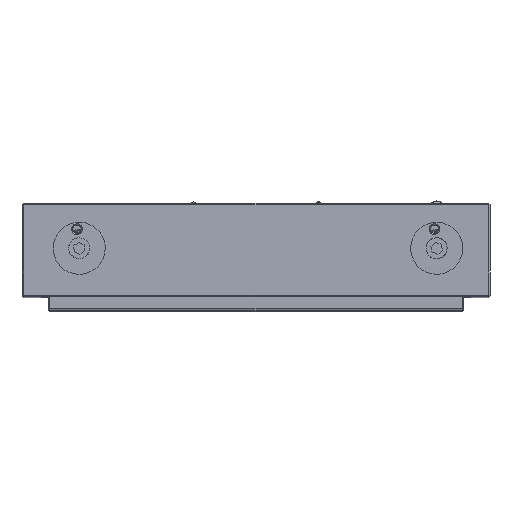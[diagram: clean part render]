
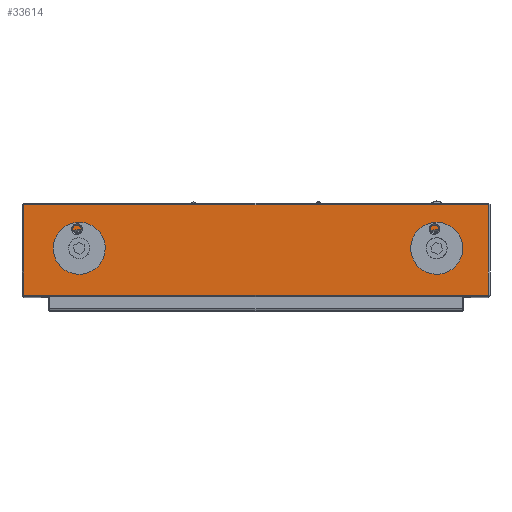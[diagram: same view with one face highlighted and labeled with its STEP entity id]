
A CAD part, top view. The second image highlights one B-rep face of the part: STEP entity #33614.
In plain terms, the highlighted planar face has unit normal (0, 0, 1) as drawn and (0, -1, 0) by its records, which use the part's own axes.
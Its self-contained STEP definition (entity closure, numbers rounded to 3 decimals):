
#122 = DIRECTION ( 'NONE',  ( 0., 0., 1. ) ) ;
#167 = EDGE_CURVE ( 'NONE', #20965, #27868, #8794, .T. ) ;
#726 = ORIENTED_EDGE ( 'NONE', *, *, #27015, .T. ) ;
#895 = CARTESIAN_POINT ( 'NONE',  ( 34.75, -52.317, 5.7 ) ) ;
#1554 = PLANE ( 'NONE',  #27975 ) ;
#1697 = VECTOR ( 'NONE', #15948, 1000. ) ;
#1916 = DIRECTION ( 'NONE',  ( 0., 1., 0. ) ) ;
#2081 = AXIS2_PLACEMENT_3D ( 'NONE', #34878, #20822, #6370 ) ;
#2355 = EDGE_CURVE ( 'NONE', #27937, #19996, #4192, .T. ) ;
#3031 = AXIS2_PLACEMENT_3D ( 'NONE', #27841, #8216, #22123 ) ;
#3660 = CARTESIAN_POINT ( 'NONE',  ( 33.327, -52.317, 12.607 ) ) ;
#4097 = EDGE_LOOP ( 'NONE', ( #10855, #31250, #19182, #32905 ) ) ;
#4107 = DIRECTION ( 'NONE',  ( -1., 0., 0. ) ) ;
#4192 = CIRCLE ( 'NONE', #6528, 1.3 ) ;
#4689 = AXIS2_PLACEMENT_3D ( 'NONE', #7618, #18923, #16358 ) ;
#4844 = FACE_OUTER_BOUND ( 'NONE', #4097, .T. ) ;
#5585 = EDGE_CURVE ( 'NONE', #36356, #27937, #15939, .T. ) ;
#6370 = DIRECTION ( 'NONE',  ( 0., 0., 1. ) ) ;
#6528 = AXIS2_PLACEMENT_3D ( 'NONE', #35223, #32444, #7052 ) ;
#6865 = LINE ( 'NONE', #18185, #17189 ) ;
#7052 = DIRECTION ( 'NONE',  ( 0., 0., 1. ) ) ;
#7618 = CARTESIAN_POINT ( 'NONE',  ( 34.75, -52.317, 9.3 ) ) ;
#8216 = DIRECTION ( 'NONE',  ( 0., 1., 0. ) ) ;
#8360 = CARTESIAN_POINT ( 'NONE',  ( -34., -52.317, 5.7 ) ) ;
#8693 = EDGE_CURVE ( 'NONE', #19996, #30106, #33417, .T. ) ;
#8794 = LINE ( 'NONE', #20104, #30040 ) ;
#9035 = ORIENTED_EDGE ( 'NONE', *, *, #5585, .T. ) ;
#9381 = DIRECTION ( 'NONE',  ( 0., 1., 0. ) ) ;
#9451 = CARTESIAN_POINT ( 'NONE',  ( 44.7, -52.317, 17.7 ) ) ;
#9510 = ORIENTED_EDGE ( 'NONE', *, *, #8693, .T. ) ;
#10398 = DIRECTION ( 'NONE',  ( 0., 0., 1. ) ) ;
#10855 = ORIENTED_EDGE ( 'NONE', *, *, #14215, .T. ) ;
#11112 = ORIENTED_EDGE ( 'NONE', *, *, #15291, .T. ) ;
#11499 = VECTOR ( 'NONE', #24081, 1000. ) ;
#11771 = CARTESIAN_POINT ( 'NONE',  ( 38.028, -52.317, 10.788 ) ) ;
#13366 = ORIENTED_EDGE ( 'NONE', *, *, #2355, .T. ) ;
#13644 = CIRCLE ( 'NONE', #3031, 3.6 ) ;
#13978 = DIRECTION ( 'NONE',  ( 0., 1., 0. ) ) ;
#14215 = EDGE_CURVE ( 'NONE', #27868, #29217, #6865, .T. ) ;
#15291 = EDGE_CURVE ( 'NONE', #30480, #36356, #13644, .T. ) ;
#15383 = ORIENTED_EDGE ( 'NONE', *, *, #31550, .T. ) ;
#15939 = CIRCLE ( 'NONE', #4689, 3.6 ) ;
#15948 = DIRECTION ( 'NONE',  ( 1., 0., 0. ) ) ;
#16358 = DIRECTION ( 'NONE',  ( 0., 0., 1. ) ) ;
#16457 = CARTESIAN_POINT ( 'NONE',  ( -34., -52.317, 9.3 ) ) ;
#16636 = DIRECTION ( 'NONE',  ( 0., 0., 1. ) ) ;
#17189 = VECTOR ( 'NONE', #4107, 1000. ) ;
#17311 = CIRCLE ( 'NONE', #24979, 3.6 ) ;
#17403 = VERTEX_POINT ( 'NONE', #26612 ) ;
#18185 = CARTESIAN_POINT ( 'NONE',  ( -45., -52.317, 17.7 ) ) ;
#18371 = FACE_BOUND ( 'NONE', #22456, .T. ) ;
#18923 = DIRECTION ( 'NONE',  ( 0., 1., 0. ) ) ;
#19182 = ORIENTED_EDGE ( 'NONE', *, *, #21587, .T. ) ;
#19996 = VERTEX_POINT ( 'NONE', #3660 ) ;
#20104 = CARTESIAN_POINT ( 'NONE',  ( 44.7, -52.317, 18. ) ) ;
#20635 = CARTESIAN_POINT ( 'NONE',  ( -44.7, -52.317, 17.7 ) ) ;
#20681 = DIRECTION ( 'NONE',  ( 0., 0., 1. ) ) ;
#20822 = DIRECTION ( 'NONE',  ( 0., 1., 0. ) ) ;
#20965 = VERTEX_POINT ( 'NONE', #22162 ) ;
#21287 = CARTESIAN_POINT ( 'NONE',  ( 31.472, -52.317, 10.788 ) ) ;
#21478 = EDGE_LOOP ( 'NONE', ( #15383, #29940 ) ) ;
#21587 = EDGE_CURVE ( 'NONE', #17403, #20965, #26495, .T. ) ;
#22123 = DIRECTION ( 'NONE',  ( 0., 0., 1. ) ) ;
#22162 = CARTESIAN_POINT ( 'NONE',  ( 44.7, -52.317, 0.3 ) ) ;
#22456 = EDGE_LOOP ( 'NONE', ( #9510, #726, #11112, #9035, #13366 ) ) ;
#23256 = AXIS2_PLACEMENT_3D ( 'NONE', #16457, #13978, #16636 ) ;
#23707 = EDGE_CURVE ( 'NONE', #29217, #17403, #29456, .T. ) ;
#23793 = CARTESIAN_POINT ( 'NONE',  ( 37.06, -52.317, 11.656 ) ) ;
#24081 = DIRECTION ( 'NONE',  ( 0., 0., -1. ) ) ;
#24438 = CARTESIAN_POINT ( 'NONE',  ( -45., -52.317, 0.3 ) ) ;
#24485 = AXIS2_PLACEMENT_3D ( 'NONE', #23793, #9381, #20681 ) ;
#24979 = AXIS2_PLACEMENT_3D ( 'NONE', #26603, #29733, #26782 ) ;
#25693 = VERTEX_POINT ( 'NONE', #26476 ) ;
#26476 = CARTESIAN_POINT ( 'NONE',  ( -34., -52.317, 12.9 ) ) ;
#26495 = LINE ( 'NONE', #24438, #1697 ) ;
#26506 = CARTESIAN_POINT ( 'NONE',  ( -44.7, -52.317, 18. ) ) ;
#26603 = CARTESIAN_POINT ( 'NONE',  ( -34., -52.317, 9.3 ) ) ;
#26612 = CARTESIAN_POINT ( 'NONE',  ( -44.7, -52.317, 0.3 ) ) ;
#26782 = DIRECTION ( 'NONE',  ( 0., 0., 1. ) ) ;
#27015 = EDGE_CURVE ( 'NONE', #30106, #30480, #36306, .T. ) ;
#27724 = VERTEX_POINT ( 'NONE', #8360 ) ;
#27841 = CARTESIAN_POINT ( 'NONE',  ( 34.75, -52.317, 9.3 ) ) ;
#27868 = VERTEX_POINT ( 'NONE', #9451 ) ;
#27937 = VERTEX_POINT ( 'NONE', #21287 ) ;
#27975 = AXIS2_PLACEMENT_3D ( 'NONE', #33169, #1916, #10398 ) ;
#29217 = VERTEX_POINT ( 'NONE', #20635 ) ;
#29456 = LINE ( 'NONE', #26506, #11499 ) ;
#29733 = DIRECTION ( 'NONE',  ( 0., 1., 0. ) ) ;
#29940 = ORIENTED_EDGE ( 'NONE', *, *, #36052, .T. ) ;
#30040 = VECTOR ( 'NONE', #122, 1000. ) ;
#30106 = VERTEX_POINT ( 'NONE', #32138 ) ;
#30480 = VERTEX_POINT ( 'NONE', #11771 ) ;
#31250 = ORIENTED_EDGE ( 'NONE', *, *, #23707, .T. ) ;
#31550 = EDGE_CURVE ( 'NONE', #27724, #25693, #17311, .T. ) ;
#32138 = CARTESIAN_POINT ( 'NONE',  ( 36.173, -52.317, 12.607 ) ) ;
#32444 = DIRECTION ( 'NONE',  ( 0., 1., 0. ) ) ;
#32905 = ORIENTED_EDGE ( 'NONE', *, *, #167, .T. ) ;
#33169 = CARTESIAN_POINT ( 'NONE',  ( -45., -52.317, 18. ) ) ;
#33310 = CIRCLE ( 'NONE', #23256, 3.6 ) ;
#33417 = CIRCLE ( 'NONE', #2081, 3.6 ) ;
#33614 = ADVANCED_FACE ( 'NONE', ( #36127, #18371, #4844 ), #1554, .F. ) ;
#34878 = CARTESIAN_POINT ( 'NONE',  ( 34.75, -52.317, 9.3 ) ) ;
#35223 = CARTESIAN_POINT ( 'NONE',  ( 32.44, -52.317, 11.656 ) ) ;
#36052 = EDGE_CURVE ( 'NONE', #25693, #27724, #33310, .T. ) ;
#36127 = FACE_BOUND ( 'NONE', #21478, .T. ) ;
#36306 = CIRCLE ( 'NONE', #24485, 1.3 ) ;
#36356 = VERTEX_POINT ( 'NONE', #895 ) ;
